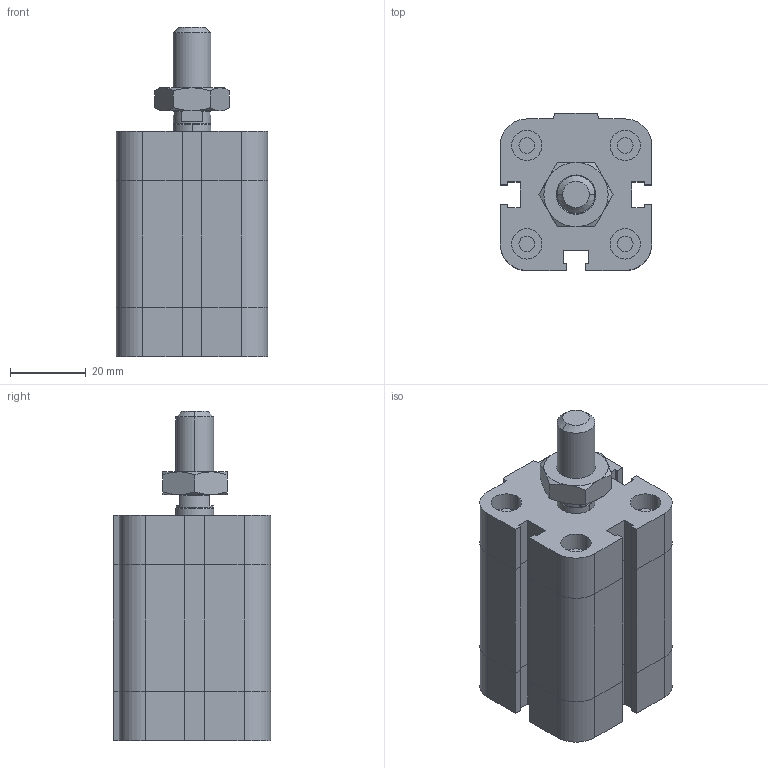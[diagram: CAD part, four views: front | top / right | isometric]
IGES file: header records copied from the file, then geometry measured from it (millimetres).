
Global section: file name: No Iges File Name specified; native system: Autodesk Inventor 2009; preprocessor: AutoDesk Inventor Iges Exporter R2009; author: rivolro1; date: 20081219.161641; units: millimetre
Bounding box: 40 x 41.5 x 87 mm (x, y, z)
Volume: 87295.4 mm3; surface area: 21419.9 mm2
Topology: 3 solids, 3 shells, 216 faces, 472 edges, 282 vertices
Faces by surface type: plane 121, bspline 37, cylinder 20, cone 20, revolution 18
